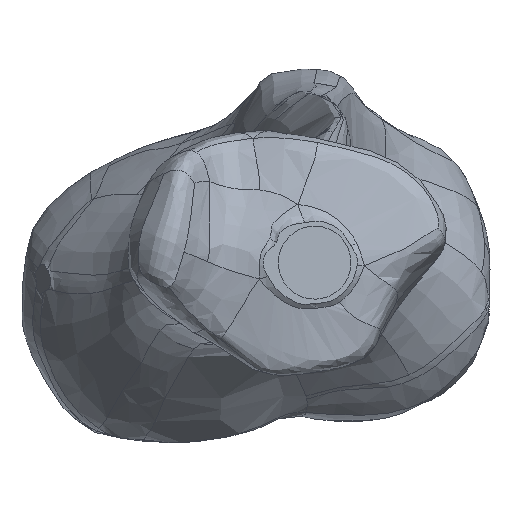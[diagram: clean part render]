
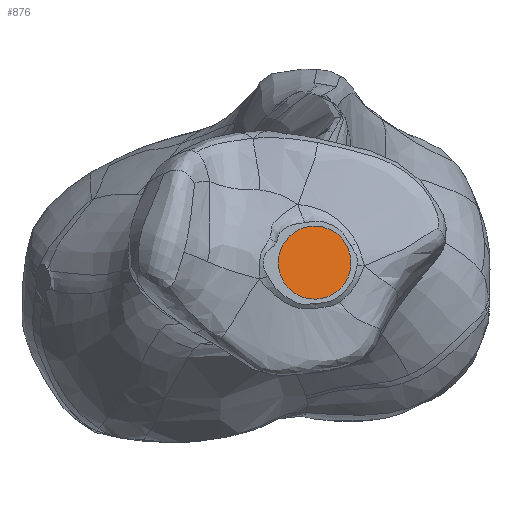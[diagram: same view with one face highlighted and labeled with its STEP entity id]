
A CAD part, front view. The second image highlights one B-rep face of the part: STEP entity #876.
In plain terms, the highlighted planar face has unit normal (0.152, -0.986, 0.069).
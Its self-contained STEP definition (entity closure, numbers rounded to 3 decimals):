
#876 = ADVANCED_FACE ( 'NONE', ( #9985 ), #36037, .F. ) ;
#1141 = CARTESIAN_POINT ( 'NONE',  ( 25.578, -166.357, 11.58 ) ) ;
#1742 = CARTESIAN_POINT ( 'NONE',  ( -8.633, -172.739, -4.535 ) ) ;
#3879 = DIRECTION ( 'NONE',  ( -0.152, 0.986, -0.069 ) ) ;
#6830 =( BOUNDED_CURVE ( )  B_SPLINE_CURVE ( 3, ( #7832, #20657, #17718, #33481, #34102, #24434, #1742 ),
 .UNSPECIFIED., .F., .T. ) 
 B_SPLINE_CURVE_WITH_KNOTS ( ( 4, 3, 4 ),
 ( 4.475, 6.292, 8.108 ),
 .UNSPECIFIED. ) 
 CURVE ( )  GEOMETRIC_REPRESENTATION_ITEM ( )  RATIONAL_B_SPLINE_CURVE ( ( 1., 0.743, 0.743, 1., 0.743, 0.743, 1. ) ) 
 REPRESENTATION_ITEM ( '' )  );
#6991 = VERTEX_POINT ( 'NONE', #33395 ) ;
#7210 = CARTESIAN_POINT ( 'NONE',  ( 2.706, -171.292, -8.788 ) ) ;
#7255 = CARTESIAN_POINT ( 'NONE',  ( -8.633, -172.739, -4.535 ) ) ;
#7832 = CARTESIAN_POINT ( 'NONE',  ( -2.665, -172.501, -14.298 ) ) ;
#8602 = ORIENTED_EDGE ( 'NONE', *, *, #28470, .F. ) ;
#8794 = VERTEX_POINT ( 'NONE', #7255 ) ;
#9985 = FACE_OUTER_BOUND ( 'NONE', #40038, .T. ) ;
#15833 = AXIS2_PLACEMENT_3D ( 'NONE', #1141, #3879, #29316 ) ;
#16682 = CARTESIAN_POINT ( 'NONE',  ( -1.308, -171.452, -2.22 ) ) ;
#17718 = CARTESIAN_POINT ( 'NONE',  ( -9.709, -173.76, -16.818 ) ) ;
#19042 = ORIENTED_EDGE ( 'NONE', *, *, #28852, .F. ) ;
#20657 = CARTESIAN_POINT ( 'NONE',  ( -5.575, -173.156, -17.284 ) ) ;
#23392 = CARTESIAN_POINT ( 'NONE',  ( -8.633, -172.739, -4.535 ) ) ;
#24434 = CARTESIAN_POINT ( 'NONE',  ( -12.601, -173.437, -5.789 ) ) ;
#28470 = EDGE_CURVE ( 'NONE', #8794, #6991, #36659, .T. ) ;
#28852 = EDGE_CURVE ( 'NONE', #6991, #8794, #6830, .T. ) ;
#29316 = DIRECTION ( 'NONE',  ( -0.988, -0.152, 0. ) ) ;
#29499 = CARTESIAN_POINT ( 'NONE',  ( -2.665, -172.501, -14.298 ) ) ;
#33395 = CARTESIAN_POINT ( 'NONE',  ( -2.665, -172.501, -14.298 ) ) ;
#33481 = CARTESIAN_POINT ( 'NONE',  ( -11.884, -173.846, -13.26 ) ) ;
#34102 = CARTESIAN_POINT ( 'NONE',  ( -14.059, -173.933, -9.701 ) ) ;
#36037 = PLANE ( 'NONE',  #15833 ) ;
#36659 =( BOUNDED_CURVE ( )  B_SPLINE_CURVE ( 3, ( #23392, #16682, #7210, #29499 ),
 .UNSPECIFIED., .F., .F. ) 
 B_SPLINE_CURVE_WITH_KNOTS ( ( 4, 4 ),
 ( 1.825, 4.475 ),
 .UNSPECIFIED. ) 
 CURVE ( )  GEOMETRIC_REPRESENTATION_ITEM ( )  RATIONAL_B_SPLINE_CURVE ( ( 1., 0.496, 0.496, 1. ) ) 
 REPRESENTATION_ITEM ( '' )  );
#40038 = EDGE_LOOP ( 'NONE', ( #8602, #19042 ) ) ;
